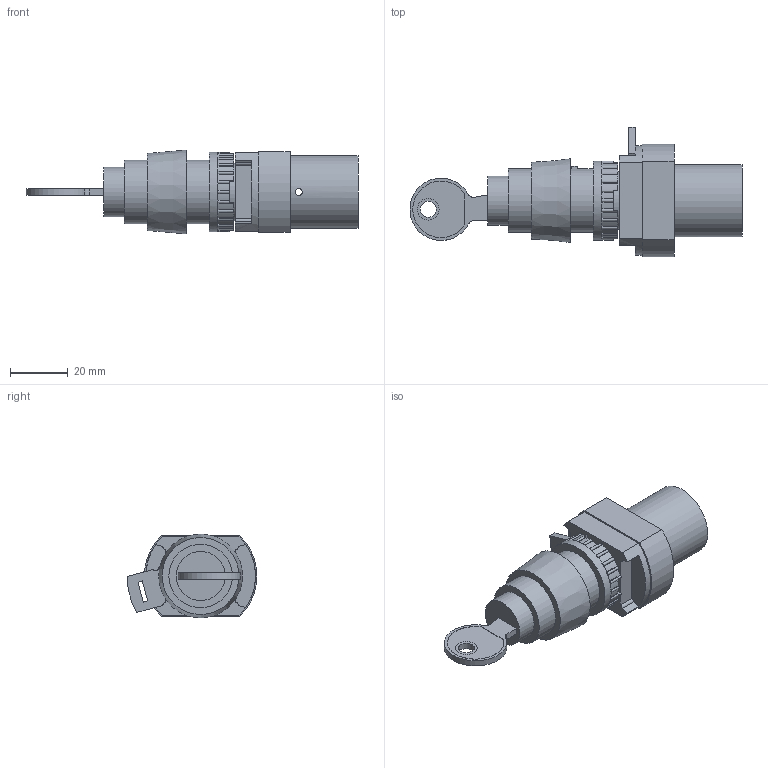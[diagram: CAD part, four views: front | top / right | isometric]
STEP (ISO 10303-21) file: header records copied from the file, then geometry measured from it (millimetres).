
FILE_DESCRIPTION (( 'STEP AP214' ), '1' );
FILE_NAME ('18-T-23-014---T-30-310_Airtec.step', '2018-11-15T13:12:41', ( '' ), ( '' ), 'SwSTEP 2.0', 'SolidWorks 2010', '' );
FILE_SCHEMA (( 'AUTOMOTIVE_DESIGN' ));
Length unit declared in the file: millimetre
Products named in the file (3): T-30-310-Airtec; 18-T-23-014-Airtec; 18-T-23-014---T-30-310_Airtec
Assembly tree (2 placements, depth 2):
  18-T-23-014---T-30-310_Airtec
    18-T-23-014-Airtec
    T-30-310-Airtec
Bounding box: 114.97 x 45 x 29 mm (x, y, z)
Volume: 48126.9 mm3; surface area: 14559.2 mm2
Topology: 2 solids, 2 shells, 275 faces, 734 edges, 480 vertices
Faces by surface type: plane 136, cylinder 134, cone 4, bspline 1
Full cylindrical faces by diameter (mm): 2.4 x1, 4.134 x2, 5 x1, 5.5 x1, 7.5 x2, 9 x1, 16 x1, 17 x1, 20 x1, 22 x2, 25 x1, 27.4 x1
Entity records: 8726 total; most frequent: DIRECTION 1601, CARTESIAN_POINT 1553, ORIENTED_EDGE 1414, EDGE_CURVE 707, AXIS2_PLACEMENT_3D 617, VERTEX_POINT 473, VECTOR 367, LINE 367
